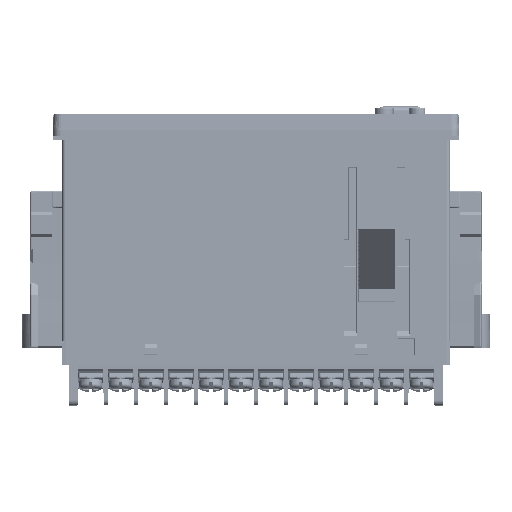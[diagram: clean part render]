
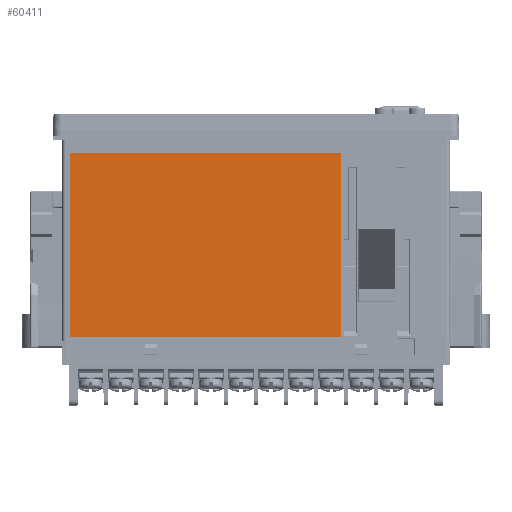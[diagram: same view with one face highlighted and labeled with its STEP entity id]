
A CAD part, left-side view. The second image highlights one B-rep face of the part: STEP entity #60411.
In plain terms, the highlighted planar face has unit normal (-1, 0, 0).
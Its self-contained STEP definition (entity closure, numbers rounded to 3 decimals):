
#9992 = CARTESIAN_POINT ( 'NONE',  ( -45.625, 44., -48.9 ) ) ;
#18233 = DIRECTION ( 'NONE',  ( -1., 0., 0. ) ) ;
#40239 = VERTEX_POINT ( 'NONE', #169102 ) ;
#60411 = ADVANCED_FACE ( 'NONE', ( #450596 ), #366469, .T. ) ;
#62411 = EDGE_CURVE ( 'NONE', #448692, #382285, #185877, .T. ) ;
#73669 = CARTESIAN_POINT ( 'NONE',  ( -45.625, 44., -48.9 ) ) ;
#101462 = DIRECTION ( 'NONE',  ( 0., 0., 1. ) ) ;
#108017 = CARTESIAN_POINT ( 'NONE',  ( -45.625, -20., -5.4 ) ) ;
#110363 = VECTOR ( 'NONE', #340675, 1000. ) ;
#111806 = EDGE_CURVE ( 'NONE', #377562, #448692, #435508, .T. ) ;
#118899 = LINE ( 'NONE', #159819, #125571 ) ;
#123951 = ORIENTED_EDGE ( 'NONE', *, *, #256688, .T. ) ;
#125571 = VECTOR ( 'NONE', #558240, 1000. ) ;
#159819 = CARTESIAN_POINT ( 'NONE',  ( -45.625, -20., -48.9 ) ) ;
#169102 = CARTESIAN_POINT ( 'NONE',  ( -45.625, -20., -48.9 ) ) ;
#179028 = VECTOR ( 'NONE', #383391, 1000. ) ;
#185877 = LINE ( 'NONE', #9992, #206425 ) ;
#199366 = ORIENTED_EDGE ( 'NONE', *, *, #62411, .T. ) ;
#206046 = ORIENTED_EDGE ( 'NONE', *, *, #532821, .T. ) ;
#206425 = VECTOR ( 'NONE', #319602, 1000. ) ;
#232468 = CARTESIAN_POINT ( 'NONE',  ( -45.625, 44., -48.9 ) ) ;
#256688 = EDGE_CURVE ( 'NONE', #382285, #40239, #491116, .T. ) ;
#283345 = CARTESIAN_POINT ( 'NONE',  ( -45.625, -20., -48.9 ) ) ;
#319602 = DIRECTION ( 'NONE',  ( 0., 0., -1. ) ) ;
#340675 = DIRECTION ( 'NONE',  ( 0., -1., 0. ) ) ;
#344584 = CARTESIAN_POINT ( 'NONE',  ( -45.625, 44., -5.4 ) ) ;
#346135 = EDGE_LOOP ( 'NONE', ( #123951, #206046, #399157, #199366 ) ) ;
#366469 = PLANE ( 'NONE',  #366782 ) ;
#366782 = AXIS2_PLACEMENT_3D ( 'NONE', #283345, #18233, #101462 ) ;
#377562 = VERTEX_POINT ( 'NONE', #108017 ) ;
#382285 = VERTEX_POINT ( 'NONE', #232468 ) ;
#383391 = DIRECTION ( 'NONE',  ( 0., 1., 0. ) ) ;
#399157 = ORIENTED_EDGE ( 'NONE', *, *, #111806, .T. ) ;
#435508 = LINE ( 'NONE', #344584, #179028 ) ;
#448692 = VERTEX_POINT ( 'NONE', #570015 ) ;
#450596 = FACE_OUTER_BOUND ( 'NONE', #346135, .T. ) ;
#491116 = LINE ( 'NONE', #73669, #110363 ) ;
#532821 = EDGE_CURVE ( 'NONE', #40239, #377562, #118899, .T. ) ;
#558240 = DIRECTION ( 'NONE',  ( 0., 0., 1. ) ) ;
#570015 = CARTESIAN_POINT ( 'NONE',  ( -45.625, 44., -5.4 ) ) ;
